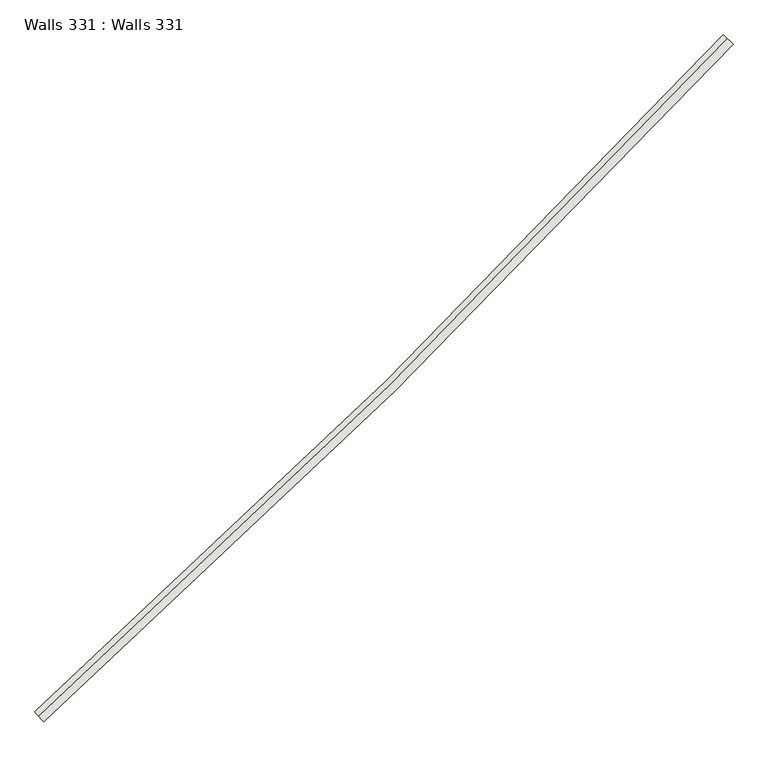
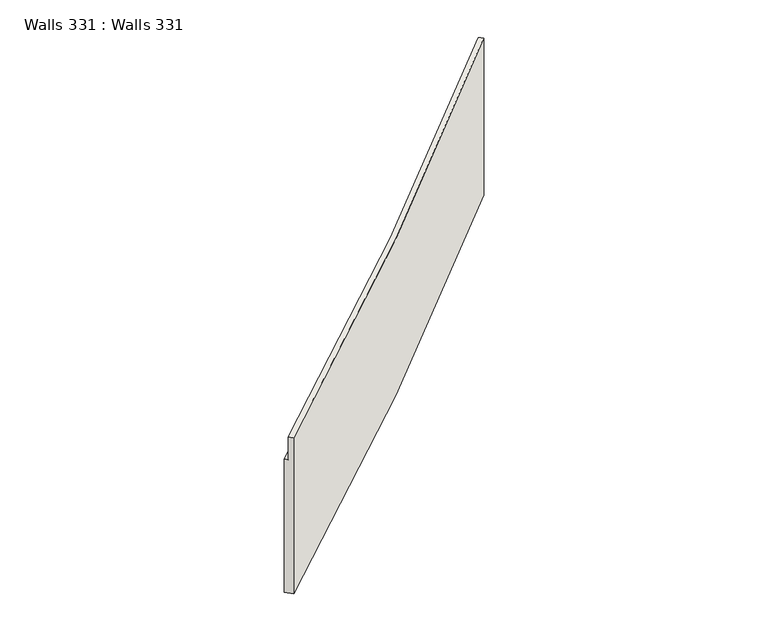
"""IFC4 building model written with IfcOpenShell, lengths in millimetres: wall geometry, Walls 331 : Walls 331."""

import ifcopenshell
import ifcopenshell.guid

model = None  # the IFC model being written
_history = None  # IfcOwnerHistory: only IFC2X3 demands one
_inside = {}  # id of a spatial element -> (the spatial element, [elements in it])
_under = {}  # id of a project, library or spatial element -> (it, [spatial elements below it])
_declared = {}  # id of a project -> (the project, [libraries it declares])
_typed = {}  # id of a type object -> (the type object, [elements of that type])
_made_of = {}  # id of a material, layer set ... -> (it, [elements and type objects made of it])


def new_model(schema):
    """Start an empty IFC model of exactly this schema.

    Asked for "IFC4X3", IfcOpenShell would pick the latest addendum, in which some entities
    have other attributes; the version numbers below select the first issue.
    IFC2X3 requires an IfcOwnerHistory on every rooted entity: one is made here for all.
    """
    global model, _history
    if schema == "IFC4X3":
        model = ifcopenshell.file(schema_version=(4, 3, 0, 0))
    else:
        model = ifcopenshell.file(schema=schema)
    _inside.clear()
    _under.clear()
    _declared.clear()
    _typed.clear()
    _made_of.clear()
    _history = None
    if model.schema == "IFC2X3":
        org = make("IfcOrganization", Name="unknown")
        user = make(
            "IfcPersonAndOrganization",
            ThePerson=make("IfcPerson", FamilyName="unknown"),
            TheOrganization=org,
        )
        app = make(
            "IfcApplication",
            ApplicationDeveloper=org,
            Version="unknown",
            ApplicationFullName="unknown",
            ApplicationIdentifier="unknown",
        )
        _history = make(
            "IfcOwnerHistory",
            OwningUser=user,
            OwningApplication=app,
            ChangeAction="ADDED",
            CreationDate=0,
        )
    return model


def make(cls, **values):
    """One entity of the class cls with the attributes given. An attribute that is None is left unset."""
    return model.create_entity(
        cls, **{name: value for name, value in values.items() if value is not None}
    )


def rooted(cls, **values):
    """An entity with a GlobalId (a new one), such as an element, a storey or a relation."""
    return make(cls, GlobalId=ifcopenshell.guid.new(), OwnerHistory=_history, **values)


def si_unit(unit_type, name, prefix=None):
    """IfcSIUnit, for example si_unit("LENGTHUNIT", "METRE", prefix="MILLI")."""
    return make("IfcSIUnit", UnitType=unit_type, Prefix=prefix, Name=name)


def assignment(units):
    """IfcUnitAssignment: the units of a project."""
    return None if units is None else make("IfcUnitAssignment", Units=units)


def point(xyz):
    """IfcCartesianPoint."""
    return None if xyz is None else make("IfcCartesianPoint", Coordinates=xyz)


def direction(xyz):
    """IfcDirection."""
    return None if xyz is None else make("IfcDirection", DirectionRatios=xyz)


def frame(location, z_axis=None, x_axis=None):
    """IfcAxis2Placement3D, a coordinate frame: its origin and axes. An axis left out is left unset."""
    return make(
        "IfcAxis2Placement3D",
        Location=point(location),
        Axis=direction(z_axis),
        RefDirection=direction(x_axis),
    )


def origin():
    """The frame at (0, 0, 0) with its axes left unset."""
    return frame((0.0, 0.0, 0.0))


def place(relative_to, where):
    """IfcLocalPlacement: puts the frame where relative to a parent placement (None: the world)."""
    return make(
        "IfcLocalPlacement", PlacementRelTo=relative_to, RelativePlacement=where
    )


def context(
    kind, dimensions, precision=None, world=None, true_north=None, identifier=None
):
    """IfcGeometricRepresentationContext, for example the 3D "Model" context."""
    return make(
        "IfcGeometricRepresentationContext",
        ContextIdentifier=identifier,
        ContextType=kind,
        CoordinateSpaceDimension=dimensions,
        Precision=precision,
        WorldCoordinateSystem=world,
        TrueNorth=true_north,
    )


def project(units=None, contexts=None):
    """IfcProject with its units and contexts."""
    return rooted(
        "IfcProject",
        Name="project",
        RepresentationContexts=contexts,
        UnitsInContext=assignment(units),
    )


def spatial(cls, under=None, at=None, **own):
    """A site, building, storey or space (cls), placed at a placement, below another one or the project."""
    s = rooted(cls, ObjectPlacement=at, **own)
    if under is not None:
        _under.setdefault(under.id(), (under, []))[1].append(s)
    return s


def shape(context_of_items, identifier, shape_type, items):
    """IfcShapeRepresentation: the items that make up one representation, for example the "Body"."""
    return make(
        "IfcShapeRepresentation",
        ContextOfItems=context_of_items,
        RepresentationIdentifier=identifier,
        RepresentationType=shape_type,
        Items=items,
    )


def source(mapping_origin, context_of_items, identifier, shape_type, items):
    """IfcRepresentationMap: a shape defined once, which mapped items show again and again."""
    return make(
        "IfcRepresentationMap",
        MappingOrigin=mapping_origin,
        MappedRepresentation=shape(context_of_items, identifier, shape_type, items),
    )


def transform(
    local_origin,
    x_axis=None,
    y_axis=None,
    z_axis=None,
    scale=None,
    scale2=None,
    scale3=None,
    uniform=True,
):
    """IfcCartesianTransformationOperator3D, or its non-uniform kind. x_axis, y_axis, z_axis: its Axis1, 2, 3."""
    if uniform:
        return make(
            "IfcCartesianTransformationOperator3D",
            Axis1=direction(x_axis),
            Axis2=direction(y_axis),
            LocalOrigin=point(local_origin),
            Scale=scale,
            Axis3=direction(z_axis),
        )
    return make(
        "IfcCartesianTransformationOperator3DnonUniform",
        Axis1=direction(x_axis),
        Axis2=direction(y_axis),
        LocalOrigin=point(local_origin),
        Scale=scale,
        Axis3=direction(z_axis),
        Scale2=scale2,
        Scale3=scale3,
    )


def mapped(mapping_source, mapping_target):
    """IfcMappedItem: shows the shape of a source again, moved by a transform."""
    return make(
        "IfcMappedItem", MappingSource=mapping_source, MappingTarget=mapping_target
    )


def made_of(thing, what):
    """Note that an element or type object is made of a material, layer set ...; save() writes the relation."""
    if what is not None:
        _made_of.setdefault(what.id(), (what, []))[1].append(thing)
    return thing


def element(
    cls,
    number,
    at=None,
    inside=None,
    cuts=None,
    type_object=None,
    material=None,
    context=None,
    identifier="Body",
    shape_type=None,
    held_by="IfcProductDefinitionShape",
    body=None,
    shapes=None,
    **own,
):
    """One element of the class cls, such as IfcWall. Its Tag is "e" and its number.

    at: its placement. inside: the storey or other place that contains it. cuts: it is an
    opening in that element (IfcRelVoidsElement). A single representation is given by context,
    identifier, shape_type and body (its items); several are given by shapes. held_by: the class
    of the entity that holds the representations. save() writes the other relations.
    """
    e = rooted(cls, Tag="e%d" % number, ObjectPlacement=at, **own)
    if body is not None:
        shapes = [shape(context, identifier, shape_type, body)]
    if shapes is not None:
        e.Representation = make(held_by, Representations=shapes)
    if inside is not None:
        _inside.setdefault(inside.id(), (inside, []))[1].append(e)
    if cuts is not None:
        rooted(
            "IfcRelVoidsElement", RelatingBuildingElement=cuts, RelatedOpeningElement=e
        )
    if type_object is not None:
        _typed.setdefault(type_object.id(), (type_object, []))[1].append(e)
    return made_of(e, material)


def aggregate(whole, parts):
    """IfcRelAggregates: a whole, such as a stair, and the parts it consists of."""
    return rooted("IfcRelAggregates", RelatingObject=whole, RelatedObjects=parts)


def save(model, path):
    """Write the relations noted so far, then the file.

    IfcRelAggregates (storeys below a building ...), IfcRelContainedInSpatialStructure (elements
    in a storey), IfcRelDefinesByType, IfcRelAssociatesMaterial and IfcRelDeclares: one each for
    every whole, place, type object, material and project.
    """
    for whole, parts in _under.values():
        aggregate(whole, parts)
    for where, things in _inside.values():
        rooted(
            "IfcRelContainedInSpatialStructure",
            RelatedElements=things,
            RelatingStructure=where,
        )
    for kind, things in _typed.values():
        rooted("IfcRelDefinesByType", RelatedObjects=things, RelatingType=kind)
    for what, things in _made_of.values():
        rooted("IfcRelAssociatesMaterial", RelatedObjects=things, RelatingMaterial=what)
    for by, libraries in _declared.values():
        rooted("IfcRelDeclares", RelatingContext=by, RelatedDefinitions=libraries)
    model.write(path)


def plane_surface(at):
    """IfcPlane: the flat surface through the origin of the frame at, square to its z axis."""
    return make("IfcPlane", Position=at)


def spline_curve(degree, points, multiplicities, knots, weights=None):
    """IfcBSplineCurveWithKnots; with weights, IfcRationalBSplineCurveWithKnots."""
    own = dict(
        Degree=degree,
        ControlPointsList=[point(p) for p in points],
        CurveForm="UNSPECIFIED",
        ClosedCurve=False,
        SelfIntersect=False,
        KnotMultiplicities=multiplicities,
        Knots=knots,
        KnotSpec="UNSPECIFIED",
    )
    if weights is None:
        return make("IfcBSplineCurveWithKnots", **own)
    return make("IfcRationalBSplineCurveWithKnots", WeightsData=weights, **own)


def spline_surface(u_degree, v_degree, points, u_multiplicities, v_multiplicities, u_knots, v_knots, weights=None):
    """IfcBSplineSurfaceWithKnots; with weights, IfcRationalBSplineSurfaceWithKnots. points: one row for each step in u."""
    own = dict(
        UDegree=u_degree,
        VDegree=v_degree,
        ControlPointsList=[[point(p) for p in row] for row in points],
        SurfaceForm="UNSPECIFIED",
        UClosed=False,
        VClosed=False,
        SelfIntersect=False,
        UMultiplicities=u_multiplicities,
        VMultiplicities=v_multiplicities,
        UKnots=u_knots,
        VKnots=v_knots,
        KnotSpec="UNSPECIFIED",
    )
    if weights is None:
        return make("IfcBSplineSurfaceWithKnots", **own)
    return make("IfcRationalBSplineSurfaceWithKnots", WeightsData=weights, **own)


def advanced_brep(points, edges, surfaces, faces):
    """IfcAdvancedBrep: a solid bounded by faces that lie on surfaces and meet in shared edges.

    An edge is (start, end): straight between two places in points (the first is 0);
    or (start, end, curve); or (start, end, curve, False) where it runs against its curve.
    A face is (place in surfaces, loops), or (place, loops, False) where it looks against
    its surface's normal. A loop lists edges by number (the first is 1), with a minus sign
    where the edge is run from its end to its start. The first loop is the outer one.
    """
    corners = [point(p) for p in points]
    vertices = [make("IfcVertexPoint", VertexGeometry=c) for c in corners]
    made = []
    for start, end, *more in edges:
        made.append(
            make(
                "IfcEdgeCurve",
                EdgeStart=vertices[start],
                EdgeEnd=vertices[end],
                EdgeGeometry=more[0] if more else make("IfcPolyline", Points=[corners[start], corners[end]]),
                SameSense=more[1] if len(more) > 1 else True,
            )
        )
    hull = []
    for where, loops, *sense in faces:
        bounds = []
        for j, loop in enumerate(loops):
            ring = [make("IfcOrientedEdge", EdgeElement=made[abs(k) - 1], Orientation=k > 0) for k in loop]
            bounds.append(
                make(
                    "IfcFaceOuterBound" if j == 0 else "IfcFaceBound",
                    Bound=make("IfcEdgeLoop", EdgeList=ring),
                    Orientation=True,
                )
            )
        hull.append(make("IfcAdvancedFace", Bounds=bounds, FaceSurface=surfaces[where], SameSense=sense[0] if sense else True))
    return make("IfcAdvancedBrep", Outer=make("IfcClosedShell", CfsFaces=hull))


def walls_331_walls_331_045427af(model_context):
    return source(origin(), model_context, "Body", "AdvancedBrep", [
        advanced_brep(
        [(-249003.3598889, -372749.7268084, 641604.0), (-249137.4799459, -372601.3630315, 641604.0), (-249137.4799459, -372601.3630315, 640604.0), (-249238.0699887, -372490.0901989, 640604.0), (-249238.0699887, -372490.0901989, 634835.0), (-249003.3598889, -372749.7268084, 634835.0), (-231008.0618471, -355050.7143825, 641877.0), (-231008.0618471, -355050.7143825, 635090.0), (-231263.7664613, -354811.7266208, 635090.0), (-231263.7664613, -354811.7266208, 640877.0), (-231154.1787695, -354914.1499472, 640877.0), (-231154.1787695, -354914.1499472, 641877.0)],
        [
            (0, 1),
            (1, 2),
            (2, 3),
            (3, 4),
            (4, 5),
            (5, 0),
            (6, 7),
            (7, 8),
            (8, 9),
            (9, 10),
            (10, 11),
            (11, 6),
            (11, 1, spline_curve(3, [(-231154.1787695, -354914.1499472, 641877.0), (-234025.579972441, -357986.401562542, 641831.499999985), (-236961.630838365, -360998.229877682, 641786.000000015), (-242957.833857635, -366895.707735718, 641694.999999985), (-246017.98601111, -369781.35727827, 641649.500000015), (-249137.4799459, -372601.3630315, 641604.0)], [4, 2, 4], [0.0, 41.40496229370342, 82.80992458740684])),
            (0, 6, spline_curve(3, [(-249003.3598889, -372749.7268084, 641604.0), (-245881.784904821, -369927.839797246, 641649.500000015), (-242819.591288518, -367040.265204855, 641694.999999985), (-236819.388133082, -361138.853072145, 641786.000000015), (-233881.378595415, -358125.015531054, 641831.499999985), (-231008.0618471, -355050.7143825, 641877.0)], [4, 2, 4], [0.0, 41.40496229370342, 82.80992458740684])),
            (10, 2, spline_curve(3, [(-231154.1787695, -354914.1499472, 640877.0), (-234025.579973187, -357986.401562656, 640831.500000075), (-236961.630837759, -360998.229877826, 640785.999999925), (-242957.833858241, -366895.707735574, 640695.000000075), (-246017.986011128, -369781.35727794, 640649.499999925), (-249137.4799459, -372601.3630315, 640604.0)], [4, 2, 4], [0.0, 41.39115765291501, 82.78231530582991])),
            (9, 3, spline_curve(3, [(-231263.7664613, -354811.7266208, 640877.0), (-234133.731006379, -357882.441085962, 640831.50000023), (-237068.312867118, -360892.762482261, 640785.99999977), (-243061.515784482, -366787.289633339, 640695.00000023), (-246120.136841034, -369671.495388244, 640649.49999977), (-249238.0699887, -372490.0901989, 640604.0)], [4, 2, 4], [0.0, 41.380804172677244, 82.76160834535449])),
            (8, 4, spline_curve(3, [(-231263.7664613, -354811.7266208, 635090.0), (-234133.731006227, -357882.44108589, 635047.499999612), (-237068.312867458, -360892.762481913, 635005.000000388), (-243061.515784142, -366787.289633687, 634919.999999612), (-246120.136841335, -369671.49538875, 634877.500000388), (-249238.0699887, -372490.0901989, 634835.0)], [4, 2, 4], [0.0, 41.37029350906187, 82.74058701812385])),
            (7, 5, spline_curve(3, [(-231008.0618471, -355050.7143825, 635090.0), (-233881.378594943, -358125.015532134, 635047.500000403), (-236819.388133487, -361138.853071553, 635004.999999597), (-242819.591288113, -367040.265205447, 634920.000000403), (-245881.78490478, -369927.839797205, 634877.499999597), (-249003.3598889, -372749.7268084, 634835.0)], [4, 2, 4], [0.0, 41.39429989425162, 82.78859978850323])),
        ],
        [
            plane_surface(frame((-249126.3032745, -372613.7266796, 639014.3333333), z_axis=(-0.7418188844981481, -0.6706002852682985, 0.0), x_axis=(0.0, 0.0, 1.0))),
            plane_surface(frame((-231142.0023593, -354925.5303168, 639281.3333333), z_axis=(0.6828221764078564, 0.7305846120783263, 0.0), x_axis=(-0.7305846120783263, 0.6828221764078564, 0.0))),
            spline_surface(3, 3, [[(-231008.0618471, -355050.7143825, 641877.0), (-233881.378594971, -358125.015531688, 641831.5), (-236819.388133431, -361138.8530722, 641786.0), (-242819.591288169, -367040.2652048, 641695.0), (-245881.784904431, -369927.839796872, 641649.5), (-249003.3598889, -372749.7268084, 641604.0)], [(-231032.414667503, -355027.953643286, 641877.0), (-233905.412157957, -358101.913203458, 641831.5), (-236843.095250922, -361115.415873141, 641786.0), (-242842.631716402, -367016.172293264, 641695.0), (-245904.485088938, -369903.426043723, 641649.5), (-249025.713231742, -372724.99951225, 641604.0)], [(-231056.767487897, -355005.192904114, 641877.0), (-233929.445720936, -358078.810875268, 641831.5), (-236866.8023684, -361091.978674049, 641786.0), (-242865.672144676, -366992.079381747, 641695.0), (-245927.185273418, -369879.012290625, 641649.5), (-249048.066574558, -372700.27221615, 641604.0)], [(-231105.473128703, -354959.671425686, 641877.0), (-233977.512846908, -358032.606218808, 641831.5), (-236914.216603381, -361045.10427593, 641786.0), (-242911.753001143, -366943.893558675, 641695.0), (-245972.585642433, -369830.184784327, 641649.5), (-249092.773260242, -372650.81762385, 641604.0)], [(-231129.825949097, -354936.910686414, 641877.0), (-234001.546409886, -358009.503890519, 641831.5), (-236937.923720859, -361021.667076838, 641786.0), (-242934.793429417, -366919.800647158, 641695.0), (-245995.285826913, -369805.771031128, 641649.5), (-249115.126603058, -372626.09032765, 641604.0)], [(-231154.1787695, -354914.1499472, 641877.0), (-234025.579972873, -357986.401562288, 641831.5), (-236961.63083835, -360998.229877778, 641786.0), (-242957.83385765, -366895.707735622, 641695.0), (-246017.98601142, -369781.35727798, 641649.5), (-249137.4799459, -372601.3630315, 641604.0)]], [4, 2, 4], [4, 2, 4], [0.0, 0.3280839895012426, 0.6561679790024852], [0.0, 41.40496229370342, 82.80992458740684]),
            spline_surface(3, 3, [[(-231154.1787695, -354914.1499472, 641877.0), (-234025.579972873, -357986.401562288, 641831.5), (-236961.63083835, -360998.229877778, 641786.0), (-242957.83385765, -366895.707735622, 641695.0), (-246017.98601142, -369781.35727798, 641649.5), (-249137.4799459, -372601.3630315, 641604.0)], [(-231154.1787695, -354914.1499472, 641710.333333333), (-234025.579972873, -357986.401562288, 641664.833333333), (-236961.63083835, -360998.229877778, 641619.333333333), (-242957.83385765, -366895.707735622, 641528.333333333), (-246017.98601142, -369781.35727798, 641482.833333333), (-249137.4799459, -372601.3630315, 641437.333333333)], [(-231154.1787695, -354914.1499472, 641543.666666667), (-234025.579972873, -357986.401562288, 641498.166666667), (-236961.63083835, -360998.229877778, 641452.666666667), (-242957.83385765, -366895.707735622, 641361.666666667), (-246017.98601142, -369781.35727798, 641316.166666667), (-249137.4799459, -372601.3630315, 641270.666666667)], [(-231154.1787695, -354914.1499472, 641210.333333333), (-234025.579972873, -357986.401562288, 641164.833333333), (-236961.63083835, -360998.229877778, 641119.333333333), (-242957.83385765, -366895.707735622, 641028.333333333), (-246017.98601142, -369781.35727798, 640982.833333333), (-249137.4799459, -372601.3630315, 640937.333333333)], [(-231154.1787695, -354914.1499472, 641043.666666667), (-234025.579972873, -357986.401562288, 640998.166666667), (-236961.63083835, -360998.229877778, 640952.666666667), (-242957.83385765, -366895.707735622, 640861.666666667), (-246017.98601142, -369781.35727798, 640816.166666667), (-249137.4799459, -372601.3630315, 640770.666666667)], [(-231154.1787695, -354914.1499472, 640877.0), (-234025.579972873, -357986.401562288, 640831.5), (-236961.63083835, -360998.229877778, 640786.0), (-242957.83385765, -366895.707735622, 640695.0), (-246017.98601142, -369781.35727798, 640649.5), (-249137.4799459, -372601.3630315, 640604.0)]], [4, 2, 4], [4, 2, 4], [0.0, 1.640419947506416, 3.280839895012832], [0.0, 41.39115765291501, 82.78231530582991]),
            spline_surface(3, 3, [[(-231154.1787695, -354914.1499472, 640877.0), (-234025.579972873, -357986.401562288, 640831.5), (-236961.63083835, -360998.229877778, 640786.0), (-242957.83385765, -366895.707735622, 640695.0), (-246017.98601142, -369781.35727798, 640649.5), (-249137.4799459, -372601.3630315, 640604.0)], [(-231172.443384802, -354897.07939279, 640877.0), (-234043.605145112, -357969.074816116, 640831.5), (-236979.411176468, -360980.651978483, 640786.0), (-242975.114178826, -366877.63805197, 640695.0), (-246035.011149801, -369763.046963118, 640649.5), (-249154.244953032, -372582.817559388, 640604.0)], [(-231190.708000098, -354880.00883841, 640877.0), (-234061.630317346, -357951.748069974, 640831.5), (-236997.191514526, -360963.074079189, 640786.0), (-242992.394499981, -366859.568368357, 640695.0), (-246052.036288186, -369744.736648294, 640649.5), (-249171.009960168, -372564.272087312, 640604.0)], [(-231227.237230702, -354845.86772959, 640877.0), (-234097.680661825, -357917.094577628, 640831.5), (-237032.752190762, -360927.9182806, 640786.0), (-243026.955142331, -366823.429001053, 640695.0), (-246086.086564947, -369708.116018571, 640649.5), (-249204.539974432, -372527.181143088, 640604.0)], [(-231245.501845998, -354828.79717521, 640877.0), (-234115.705834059, -357899.767831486, 640831.5), (-237050.532528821, -360910.340381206, 640786.0), (-243044.235463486, -366805.359317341, 640695.0), (-246103.111703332, -369689.805703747, 640649.5), (-249221.304981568, -372508.635671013, 640604.0)], [(-231263.7664613, -354811.7266208, 640877.0), (-234133.731006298, -357882.441085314, 640831.5), (-237068.312866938, -360892.762481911, 640786.0), (-243061.515784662, -366787.289633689, 640695.0), (-246120.136841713, -369671.495388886, 640649.5), (-249238.0699887, -372490.0901989, 640604.0)]], [4, 2, 4], [4, 2, 4], [0.0, 0.24606299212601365, 0.4921259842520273], [0.0, 41.380804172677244, 82.76160834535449]),
            spline_surface(3, 3, [[(-231263.7664613, -354811.7266208, 640877.0), (-234133.731006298, -357882.441085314, 640831.5), (-237068.312866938, -360892.762481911, 640786.0), (-243061.515784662, -366787.289633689, 640695.0), (-246120.136841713, -369671.495388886, 640649.5), (-249238.0699887, -372490.0901989, 640604.0)], [(-231263.7664613, -354811.7266208, 639912.5), (-234133.731006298, -357882.441085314, 639867.5), (-237068.312866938, -360892.762481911, 639822.5), (-243061.515784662, -366787.289633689, 639732.5), (-246120.136841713, -369671.495388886, 639687.5), (-249238.0699887, -372490.0901989, 639642.5)], [(-231263.7664613, -354811.7266208, 638948.0), (-234133.731006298, -357882.441085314, 638903.5), (-237068.312866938, -360892.762481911, 638859.0), (-243061.515784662, -366787.289633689, 638770.0), (-246120.136841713, -369671.495388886, 638725.5), (-249238.0699887, -372490.0901989, 638681.0)], [(-231263.7664613, -354811.7266208, 637019.0), (-234133.731006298, -357882.441085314, 636975.5), (-237068.312866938, -360892.762481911, 636932.0), (-243061.515784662, -366787.289633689, 636845.0), (-246120.136841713, -369671.495388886, 636801.5), (-249238.0699887, -372490.0901989, 636758.0)], [(-231263.7664613, -354811.7266208, 636054.5), (-234133.731006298, -357882.441085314, 636011.5), (-237068.312866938, -360892.762481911, 635968.5), (-243061.515784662, -366787.289633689, 635882.5), (-246120.136841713, -369671.495388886, 635839.5), (-249238.0699887, -372490.0901989, 635796.5)], [(-231263.7664613, -354811.7266208, 635090.0), (-234133.731006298, -357882.441085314, 635047.5), (-237068.312866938, -360892.762481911, 635005.0), (-243061.515784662, -366787.289633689, 634920.0), (-246120.136841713, -369671.495388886, 634877.5), (-249238.0699887, -372490.0901989, 634835.0)]], [4, 2, 4], [4, 2, 4], [0.0, 9.478346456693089, 18.956692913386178], [0.0, 41.37029350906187, 82.74058701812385]),
            spline_surface(3, 3, [[(-231263.7664613, -354811.7266208, 635090.0), (-234133.731006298, -357882.441085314, 635047.5), (-237068.312866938, -360892.762481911, 635005.0), (-243061.515784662, -366787.289633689, 634920.0), (-246120.136841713, -369671.495388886, 634877.5), (-249238.0699887, -372490.0901989, 634835.0)], [(-231221.149025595, -354851.557914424, 635090.0), (-234091.672271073, -357922.870159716, 635047.5), (-237026.82541133, -360933.777580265, 635005.0), (-243021.195035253, -366829.452228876, 634920.0), (-246080.411518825, -369714.219456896, 634877.5), (-249198.951638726, -372533.362967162, 634835.0)], [(-231178.531589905, -354891.389207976, 635090.0), (-234049.613535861, -357963.299234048, 635047.5), (-236985.337955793, -360974.792678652, 635005.0), (-242980.874285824, -366871.614824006, 634920.0), (-246040.686195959, -369756.943524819, 634877.5), (-249159.833288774, -372576.635735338, 634835.0)], [(-231093.296718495, -354971.051795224, 635090.0), (-233965.496065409, -358044.157382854, 635047.5), (-236902.363044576, -361056.82287536, 635005.0), (-242900.232787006, -366955.940014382, 634920.0), (-245961.235550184, -369842.391660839, 634877.5), (-249081.596588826, -372663.181271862, 634835.0)], [(-231050.679282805, -355010.883088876, 635090.0), (-233923.437330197, -358084.586457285, 635047.5), (-236860.87558904, -361097.837973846, 635005.0), (-242859.912037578, -366998.102609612, 634920.0), (-245921.510227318, -369885.115728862, 634877.5), (-249042.478238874, -372706.454040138, 634835.0)], [(-231008.0618471, -355050.7143825, 635090.0), (-233881.378594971, -358125.015531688, 635047.5), (-236819.388133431, -361138.8530722, 635005.0), (-242819.591288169, -367040.2652048, 634920.0), (-245881.784904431, -369927.839796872, 634877.5), (-249003.3598889, -372749.7268084, 634835.0)]], [4, 2, 4], [4, 2, 4], [0.0, 0.5741469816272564, 1.1482939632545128], [0.0, 41.39429989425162, 82.78859978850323]),
            spline_surface(3, 3, [[(-231008.0618471, -355050.7143825, 635090.0), (-233881.378594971, -358125.015531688, 635047.5), (-236819.388133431, -361138.8530722, 635005.0), (-242819.591288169, -367040.2652048, 634920.0), (-245881.784904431, -369927.839796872, 634877.5), (-249003.3598889, -372749.7268084, 634835.0)], [(-231008.0618471, -355050.7143825, 636221.166666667), (-233881.378594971, -358125.015531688, 636178.166666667), (-236819.388133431, -361138.8530722, 636135.166666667), (-242819.591288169, -367040.2652048, 636049.166666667), (-245881.784904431, -369927.839796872, 636006.166666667), (-249003.3598889, -372749.7268084, 635963.166666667)], [(-231008.0618471, -355050.7143825, 637352.333333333), (-233881.378594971, -358125.015531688, 637308.833333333), (-236819.388133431, -361138.8530722, 637265.333333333), (-242819.591288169, -367040.2652048, 637178.333333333), (-245881.784904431, -369927.839796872, 637134.833333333), (-249003.3598889, -372749.7268084, 637091.333333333)], [(-231008.0618471, -355050.7143825, 639614.666666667), (-233881.378594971, -358125.015531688, 639570.166666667), (-236819.388133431, -361138.8530722, 639525.666666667), (-242819.591288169, -367040.2652048, 639436.666666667), (-245881.784904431, -369927.839796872, 639392.166666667), (-249003.3598889, -372749.7268084, 639347.666666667)], [(-231008.0618471, -355050.7143825, 640745.833333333), (-233881.378594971, -358125.015531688, 640700.833333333), (-236819.388133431, -361138.8530722, 640655.833333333), (-242819.591288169, -367040.2652048, 640565.833333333), (-245881.784904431, -369927.839796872, 640520.833333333), (-249003.3598889, -372749.7268084, 640475.833333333)], [(-231008.0618471, -355050.7143825, 641877.0), (-233881.378594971, -358125.015531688, 641831.5), (-236819.388133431, -361138.8530722, 641786.0), (-242819.591288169, -367040.2652048, 641695.0), (-245881.784904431, -369927.839796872, 641649.5), (-249003.3598889, -372749.7268084, 641604.0)]], [4, 2, 4], [4, 2, 4], [0.0, 11.118766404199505, 22.23753280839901], [0.0, 41.418609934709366, 82.83721986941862]),
        ],
        [
            (0, [[1, 2, 3, 4, 5, 6]]),
            (1, [[7, 8, 9, 10, 11, 12]]),
            (2, [[-12, 13, -1, 14]]),
            (3, [[-11, 15, -2, -13]]),
            (4, [[-10, 16, -3, -15]]),
            (5, [[-9, 17, -4, -16]]),
            (6, [[-8, 18, -5, -17]]),
            (7, [[-7, -14, -6, -18]]),
        ],
    ),
    ])


if __name__ == "__main__":
    model = new_model("IFC4")
    model_context = context("Model", 3, world=origin())
    ifc_project = project(units=[si_unit("LENGTHUNIT", "METRE", prefix="MILLI")], contexts=[model_context])
    site = spatial("IfcSite", under=ifc_project)
    building = spatial("IfcBuilding", under=site)
    placement = place(None, origin())
    walls_331_walls_331_shape = walls_331_walls_331_045427af(model_context)
    element("IfcWall", 1, ObjectType="Walls 331 : Walls 331", at=placement, inside=building, context=model_context, shape_type="MappedRepresentation", body=[
        mapped(walls_331_walls_331_shape, transform((0.0, 0.0, 0.0), x_axis=(1.0, 0.0, 0.0), y_axis=(0.0, 1.0, 0.0), z_axis=(0.0, 0.0, 1.0))),
    ])
    save(model, "model.ifc")
